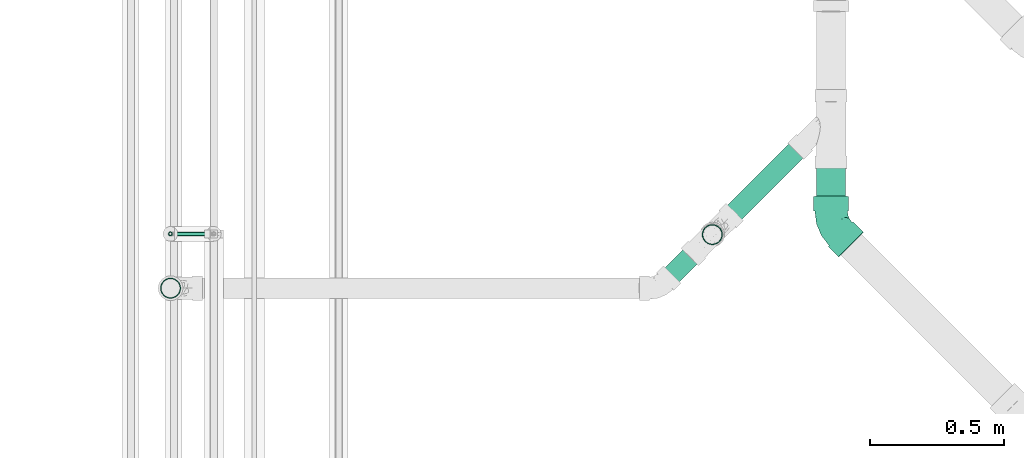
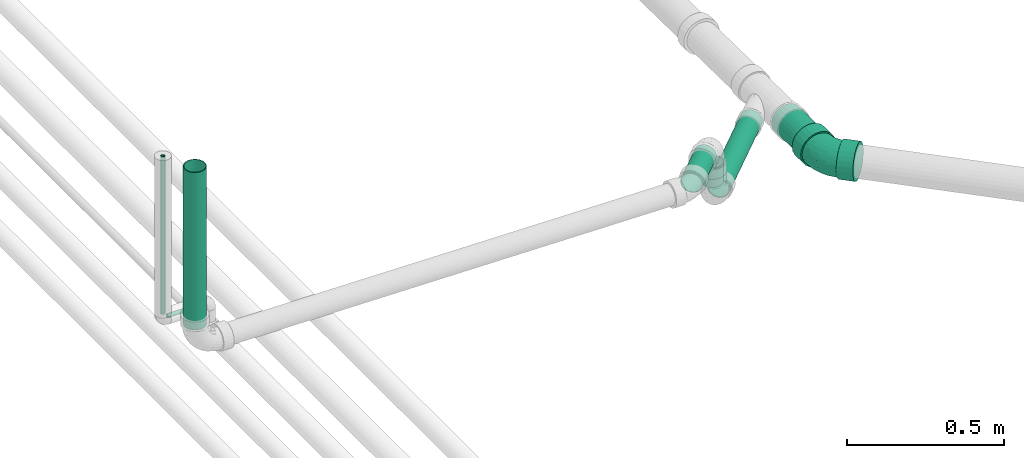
# One storey, part 29 of 83: 7 flow segments, 1 flow fitting.
"""IFC2X3 building model written with IfcOpenShell, lengths in millimetres."""

from ifc_helpers import new_model, entity, si_unit, converted_unit, derived_unit, direction, frame, origin_with_axes, origin_2d_with_axis, place, context, subcontext, project, spatial, hollow_circle, extrude, open_shell, surface_model, source, transform, mapped, type_object, element, save


model = new_model("IFC2X3")

# Units and contexts
model_context = context("Model", 3, precision=0.01, world=frame((0.0, 4.29681676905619e-09, 0.0)), true_north=direction((4.01073788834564e-13, 1.0)))
plan_context = context("Plan", 3, precision=0.01, world=frame((0.0, 4.29681676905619e-09, 0.0)), true_north=direction((4.01073788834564e-13, 1.0)))
body_context = subcontext(model_context, "Body", "Model", "MODEL_VIEW")
ifc_project = project(units=[converted_unit("PLANEANGLEUNIT", "DEGREE", entity("IfcPositiveLengthMeasure", 0.0174532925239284), si_unit("PLANEANGLEUNIT", "RADIAN"), dimensions=[0, 0, 0, 0, 0, 0, 0]), si_unit("AREAUNIT", "SQUARE_METRE"), si_unit("LENGTHUNIT", "METRE", prefix="MILLI"), si_unit("MASSUNIT", "GRAM", prefix="KILO"), si_unit("POWERUNIT", "WATT"), si_unit("PRESSUREUNIT", "PASCAL"), si_unit("FORCEUNIT", "NEWTON", prefix="KILO"), si_unit("ELECTRICVOLTAGEUNIT", "VOLT"), si_unit("ELECTRICCURRENTUNIT", "AMPERE"), si_unit("THERMODYNAMICTEMPERATUREUNIT", "DEGREE_CELSIUS"), si_unit("TIMEUNIT", "SECOND"), si_unit("VOLUMEUNIT", "CUBIC_METRE"), derived_unit("LINEARVELOCITYUNIT", [(si_unit("LENGTHUNIT", "METRE"), 1), (si_unit("TIMEUNIT", "SECOND"), -1)]), derived_unit("VOLUMETRICFLOWRATEUNIT", [(si_unit("VOLUMEUNIT", "CUBIC_METRE"), 1), (si_unit("TIMEUNIT", "SECOND"), -1)]), derived_unit("THERMALTRANSMITTANCEUNIT", [(si_unit("POWERUNIT", "WATT"), 1), (si_unit("THERMODYNAMICTEMPERATUREUNIT", "KELVIN"), -1), (si_unit("AREAUNIT", "SQUARE_METRE"), -1)]), derived_unit("SOUNDPRESSUREUNIT", [(si_unit("PRESSUREUNIT", "PASCAL"), 1)])], contexts=[model_context, plan_context])

# Site, building, storey
site_placement = place(None, frame((0.0, -4.29681676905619e-09, 0.0), z_axis=(0.0, 0.0, 1.0), x_axis=(1.0, 0.0, 0.0)))
site = spatial("IfcSite", under=ifc_project, at=site_placement, Name="ENGM", CompositionType="ELEMENT")
building_placement = place(site_placement, frame((0.0, 4.29681676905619e-09, 0.0), z_axis=(0.0, 0.0, 1.0), x_axis=(1.0, 0.0, 0.0)))
building = spatial("IfcBuilding", under=site, at=building_placement, Name="TI", CompositionType="ELEMENT")
storey_placement = place(building_placement, frame((0.0, 0.0, 204000.0), z_axis=(0.0, 0.0, 1.0), x_axis=(1.0, 0.0, 0.0)))
storey = spatial("IfcBuildingStorey", under=building, at=storey_placement, Name="Nivå D", CompositionType="ELEMENT", Elevation=204000.0)

# Flow fitting
pipe_fitting_type = type_object("IfcPipeFittingType", Name="magi_sewer_bend_001", PredefinedType="BEND")
shared_shape_1 = source(origin_with_axes(), body_context, "Body", "SurfaceModel", [
    surface_model("IfcShellBasedSurfaceModel", [(-105.11169, -16.95265, -63.26814), (-105.11169, -32.75, -56.72466), (-105.11169, -46.3155, -46.3155), (-105.11169, -63.26814, -16.95265), (-105.11169, 56.72466, -32.75), (-105.11169, -56.72466, -32.75), (-105.11169, -65.5, 0.0), (-105.11169, 16.95265, -63.26814), (-105.11169, 0.0, -65.5), (-105.11169, 32.75, -56.72466), (-105.11169, 46.3155, -46.3155), (-105.11169, 63.26814, -16.95265), (-105.11169, -63.26814, 16.95265), (-105.11169, -56.72466, 32.75), (-105.11169, -46.3155, 46.3155), (-105.11169, 63.26814, 16.95265), (-105.11169, -16.95265, 63.26814), (-105.11169, 0.0, 65.5), (-105.11169, -32.75, 56.72466), (-105.11169, 46.3155, 46.3155), (-105.11169, 56.72466, 32.75), (-105.11169, 65.5, 0.0), (-105.11169, 16.95265, 63.26814), (-105.11169, 32.75, 56.72466), (-50.11169, -16.95265, 63.26814), (-50.11169, 16.95265, 63.26814), (-50.11169, 0.0, 65.5), (-50.11169, -46.3155, 46.3155), (-50.11169, -32.75, 56.72466), (-50.11169, -56.72466, 32.75), (-50.11169, -63.26814, 16.95265), (-50.11169, -63.26814, -16.95265), (-50.11169, 32.75, -56.72466), (-50.11169, -65.5, 0.0), (-50.11169, -16.95265, -63.26814), (-50.11169, -56.72466, -32.75), (-50.11169, -46.3155, -46.3155), (-50.11169, -32.75, -56.72466), (-50.11169, 0.0, -65.5), (-50.11169, 16.95265, -63.26814), (-50.11169, 32.75, 56.72466), (86.31969, 62.32793, 63.26814), (97.48882, 51.15623, 56.72466), (107.07996, 41.56287, 46.3155), (86.31969, 62.32793, -63.26814), (107.07996, 41.56287, -46.3155), (97.48882, 51.15623, -56.72466), (-9.2938, 80.17271, -16.95265), (-10.87178, 81.75106, 0.0), (29.60155, 119.05911, -16.95265), (34.22796, 114.43164, -32.75), (-4.66739, 75.54525, -32.75), (28.02357, 120.63746, 0.0), (-9.2938, 80.17271, 16.95265), (74.33373, 74.31664, 65.5), (35.43839, 35.43024, 65.5), (-50.11169, -30.25, -52.39454), (-50.11169, -42.77996, -42.77996), (-50.11169, -15.65855, -58.43851), (-50.11169, 0.0, -60.5), (-50.11169, -58.43851, -15.65855), (-50.11169, -60.5, 0.0), (-50.11169, -52.39454, -30.25), (-50.11169, 15.65855, 58.43851), (-50.11169, 30.25, 52.39454), (-50.11169, -58.43851, 15.65855), (-50.11169, -52.39454, 30.25), (-50.11169, -42.77996, 42.77996), (-50.11169, -30.25, 52.39454), (-50.11169, -15.65855, 58.43851), (-50.11169, 0.0, 60.5), (72.48266, -1.62256, -30.25), (78.21343, -7.35464, 0.0), (76.75591, -5.89678, -15.65855), (65.68491, 5.17676, -42.77996), (76.75591, -5.89678, 15.65855), (65.68491, 5.17676, 42.77996), (72.48266, -1.62256, 30.25), (56.82591, 14.0378, 52.39454), (24.36739, 46.50378, 58.43851), (35.43839, 35.43024, 60.5), (15.40779, -37.20376, 33.71575), (-13.37979, -34.19359, 46.68447), (-19.52869, -46.27099, 35.42531), (-20.20595, -56.56342, 0.0), (-3.14275, -54.31734, 0.0), (-12.90841, -55.73812, 10.33155), (46.52523, -18.91501, 35.42531), (-23.96888, -22.18524, 55.29409), (6.21199, -14.9995, 54.53203), (-18.05072, -5.82526, 59.69855), (-30.3089, 8.38332, 60.13281), (-23.23918, 25.17567, 56.55885), (-17.18178, 41.48723, 49.39213), (23.34312, -39.60182, 23.84486), (-10.84361, -52.34235, 21.01062), (18.78215, -45.35149, 13.15148), (-1.60588, 72.48303, 30.25), (-5.87912, 76.75726, 15.65855), (-24.91871, 60.16888, 24.85552), (-26.96256, 65.10396, 0.0), (-24.23052, 64.82487, 12.7115), (-7.33665, 78.21512, 0.0), (10.15363, -24.51702, 48.24728), (16.88386, 8.64276, 59.69855), (-26.67255, 50.73823, 38.17936), (32.63604, 1.25747, 55.29409), (5.19187, 65.68372, 42.77996), (1.79864, 36.36872, 56.46793), (18.74175, -45.25396, 0.0), (-18.05072, -5.82526, -59.69855), (-12.90841, -55.73812, -10.33155), (18.78215, -45.35149, -13.15148), (-26.98558, 24.44784, -56.46793), (-27.97808, 12.5178, -59.61973), (-50.11169, 15.65855, -58.43851), (-50.11169, 30.25, -52.39454), (-10.84361, -52.34235, -21.01062), (5.19187, 65.68372, -42.77996), (-17.18178, 41.48723, -49.39213), (-17.01071, 54.73965, -38.17936), (-19.52869, -46.27099, -35.42531), (-13.37979, -34.19359, -46.68447), (-23.96888, -22.18524, -55.29409), (-5.87912, 76.75726, -15.65855), (-1.60588, 72.48303, -30.25), (-24.91871, 60.16888, -24.85551), (6.21199, -14.9995, -54.53203), (15.40779, -37.20376, -33.71575), (-28.6973, 62.97497, -12.7115), (16.88386, 8.64276, -59.69855), (-1.36537, 34.23462, -56.55885), (11.49152, -44.51012, -23.84486), (32.63604, 1.25747, -55.29409), (54.28118, -25.71485, 0.0), (-50.11168, 46.3155, 46.3155), (-50.11168, 63.26814, 16.95265), (-50.11168, 56.72466, 32.75), (-50.11168, 63.26814, -16.95265), (-50.11168, 65.5, 0.0), (-50.11168, 56.72466, -32.75), (-50.11168, 46.3155, -46.3155), (29.60156, 119.0591, 16.95265), (-50.11168, 58.43851, -15.65855), (-50.11168, 52.39454, -30.25), (-50.11168, 42.77996, -42.77996), (-50.11168, 52.39454, 30.25), (-50.11168, 58.43851, 15.65855), (-50.11168, 42.77996, 42.77996), (14.05087, 56.82267, 52.39454), (-50.11168, 60.5, 0.0), (44.67583, -29.34919, 21.01062), (33.63776, -14.72146, 46.68447), (46.50938, 24.35668, 58.43851), (48.53694, -30.29078, 10.33155), (35.43839, 35.43023, -60.5), (46.50938, 24.35668, -58.43851), (14.05087, 56.82267, -52.39454), (44.67584, -29.34919, -21.01062), (33.63776, -14.72146, -46.68447), (46.52521, -18.91503, -35.42531), (48.53694, -30.29078, -10.33155), (15.50688, 27.35775, -60.13281), (23.45244, 47.41894, -63.26814), (62.34779, 86.30533, -63.26814), (35.43839, 35.43023, -65.5), (12.28331, 58.59064, -56.72466), (51.17865, 97.47704, -56.72466), (41.58751, 107.07039, -46.3155), (51.17865, 97.47704, 56.72466), (12.28331, 58.59064, 56.72466), (23.45244, 47.41894, 63.26814), (62.34779, 86.30533, 63.26814), (40.62625, -36.19058, 0.0), (54.28118, -25.71487, 0.0), (24.36739, 46.50377, -58.43851), (-5.75269, 13.89049, 60.28733), (10.93536, 28.63364, 59.61973), (34.22796, 114.43164, 32.75), (41.58751, 107.07041, 46.3155), (2.69216, 68.184, 46.3155), (2.69216, 68.184, -46.3155), (-4.66739, 75.54524, 32.75), (58.59347, 12.26981, 56.72466), (47.42434, 23.44151, 63.26814), (58.59347, 12.26981, -56.72466), (47.42434, 23.44151, -63.26814), (-5.75269, 13.89049, -60.28734), (74.33373, 74.31664, -65.5), (119.06592, 29.57415, 16.95265), (120.6439, 27.9958, 0.0), (114.43952, 34.20162, 32.75), (114.43952, 34.20162, -32.75), (119.06592, 29.57415, -16.95265), (80.17058, -9.31224, -16.95265), (81.74855, -10.89058, 0.0), (80.17058, -9.31224, 16.95265), (75.54417, -4.68477, 32.75), (68.18462, 2.67647, 46.3155), (75.54417, -4.68477, -32.75), (68.18462, 2.67647, -46.3155), (56.82591, 14.0378, -52.39454), (10.15363, -24.51702, -48.24728)], [open_shell([[[0, 1, 2]], [[0, 2, 3]], [[0, 3, 4]], [[3, 2, 5]], [[4, 3, 6]], [[0, 7, 8]], [[0, 9, 7]], [[10, 9, 0]], [[0, 4, 10]], [[6, 11, 4]], [[6, 12, 11]], [[12, 13, 14]], [[11, 14, 15]], [[16, 17, 14]], [[16, 14, 18]], [[15, 14, 17]], [[15, 19, 20]], [[21, 11, 15]], [[19, 22, 23]], [[22, 19, 15]], [[17, 22, 15]], [[11, 12, 14]], [[24, 25, 26]], [[27, 24, 28]], [[27, 29, 30]], [[24, 27, 25]], [[30, 25, 27]], [[31, 32, 33]], [[34, 31, 35]], [[36, 37, 34]], [[36, 34, 35]], [[38, 31, 34]], [[32, 38, 39]], [[32, 31, 38]], [[39, 38, 7]], [[9, 32, 7]], [[32, 39, 7]], [[38, 8, 7]], [[0, 34, 37]], [[36, 1, 37]], [[5, 35, 31]], [[36, 35, 2]], [[3, 31, 33]], [[34, 0, 8]], [[37, 1, 0]], [[36, 2, 1]], [[35, 5, 2]], [[3, 5, 31]], [[33, 6, 3]], [[34, 8, 38]], [[30, 12, 33]], [[29, 13, 30]], [[28, 18, 27]], [[27, 14, 29]], [[30, 13, 12]], [[12, 6, 33]], [[17, 16, 24]], [[16, 18, 28]], [[14, 27, 18]], [[14, 13, 29]], [[24, 16, 28]], [[24, 26, 17]], [[22, 25, 40]], [[25, 22, 17]], [[40, 23, 22]], [[25, 17, 26]], [[41, 42, 43]], [[44, 45, 46]], [[47, 48, 49]], [[50, 51, 49]], [[51, 47, 49]], [[48, 52, 49]], [[53, 52, 48]], [[41, 54, 55]], [[56, 57, 58]], [[57, 59, 58]], [[60, 61, 62]], [[57, 62, 61]], [[57, 61, 59]], [[63, 64, 65]], [[66, 67, 65]], [[68, 65, 67]], [[69, 70, 68]], [[65, 68, 70]], [[70, 63, 65]], [[71, 72, 73]], [[72, 71, 74]], [[75, 76, 77]], [[76, 75, 78]], [[75, 79, 80]], [[81, 82, 83]], [[84, 85, 86]], [[68, 67, 82]], [[77, 76, 87]], [[88, 82, 89]], [[83, 82, 67]], [[69, 68, 88]], [[70, 69, 90]], [[91, 63, 70]], [[64, 92, 93]], [[65, 84, 86]], [[94, 95, 96]], [[67, 66, 83]], [[95, 86, 96]], [[64, 63, 92]], [[97, 98, 99]], [[81, 83, 95]], [[66, 95, 83]], [[91, 92, 63]], [[81, 94, 87]], [[66, 65, 95]], [[100, 101, 102]], [[82, 103, 89]], [[98, 101, 99]], [[89, 104, 90]], [[97, 99, 105]], [[89, 106, 104]], [[97, 105, 107]], [[108, 93, 92]], [[88, 90, 69]], [[107, 105, 93]], [[82, 88, 68]], [[90, 88, 89]], [[65, 61, 84]], [[96, 85, 109]], [[65, 86, 95]], [[85, 96, 86]], [[90, 91, 70]], [[81, 103, 82]], [[102, 101, 98]], [[95, 94, 81]], [[58, 59, 110]], [[85, 111, 112]], [[113, 114, 115]], [[60, 111, 84]], [[116, 113, 115]], [[111, 60, 117]], [[118, 119, 120]], [[117, 62, 121]], [[121, 57, 122]], [[57, 56, 122]], [[60, 62, 117]], [[57, 121, 62]], [[123, 56, 58]], [[124, 125, 126]], [[127, 123, 110]], [[128, 121, 122]], [[102, 124, 129]], [[127, 110, 130]], [[125, 120, 126]], [[123, 122, 56]], [[114, 110, 59]], [[119, 131, 113]], [[111, 117, 112]], [[128, 132, 121]], [[124, 126, 129]], [[125, 118, 120]], [[119, 113, 116]], [[110, 123, 58]], [[122, 123, 127]], [[130, 133, 127]], [[84, 111, 85]], [[84, 61, 60]], [[132, 112, 117]], [[73, 72, 134]], [[59, 115, 114]], [[129, 100, 102]], [[121, 132, 117]], [[85, 112, 109]], [[135, 136, 137]], [[136, 138, 139]], [[138, 11, 139]], [[140, 4, 138]], [[141, 10, 140]], [[138, 4, 11]], [[11, 21, 139]], [[9, 10, 141]], [[10, 4, 140]], [[20, 137, 136]], [[135, 137, 19]], [[15, 136, 139]], [[135, 19, 23]], [[137, 20, 19]], [[15, 20, 136]], [[139, 21, 15]], [[53, 142, 52]], [[143, 144, 145]], [[146, 147, 148]], [[148, 93, 105]], [[149, 107, 93]], [[146, 105, 99]], [[147, 146, 99]], [[101, 150, 147]], [[151, 94, 96]], [[147, 99, 101]], [[79, 149, 108]], [[146, 148, 105]], [[103, 81, 152]], [[93, 108, 149]], [[104, 106, 153]], [[152, 106, 89]], [[96, 154, 151]], [[152, 89, 103]], [[101, 100, 150]], [[155, 156, 130]], [[144, 120, 145]], [[126, 120, 144]], [[133, 130, 156]], [[118, 157, 119]], [[126, 144, 143]], [[131, 119, 157]], [[132, 158, 112]], [[127, 133, 159]], [[160, 128, 159]], [[128, 160, 158]], [[145, 120, 119]], [[161, 112, 158]], [[130, 162, 155]], [[158, 132, 128]], [[163, 164, 165]], [[166, 167, 163]], [[163, 167, 164]], [[168, 167, 166]], [[169, 170, 171]], [[172, 169, 171]], [[150, 143, 147]], [[98, 124, 102]], [[154, 96, 173]], [[174, 154, 173]], [[173, 96, 109]], [[157, 175, 131]], [[162, 175, 155]], [[162, 131, 175]], [[112, 173, 109]], [[112, 161, 173]], [[151, 75, 77]], [[151, 77, 87]], [[87, 94, 151]], [[176, 177, 108]], [[25, 135, 40]], [[135, 25, 136]], [[25, 30, 136]], [[136, 30, 138]], [[33, 141, 140]], [[140, 138, 33]], [[32, 141, 33]], [[33, 138, 30]], [[141, 32, 9]], [[135, 23, 40]], [[178, 52, 142]], [[172, 178, 179]], [[172, 179, 169]], [[168, 164, 167]], [[180, 171, 170]], [[181, 168, 166]], [[50, 168, 181]], [[181, 51, 50]], [[142, 53, 182]], [[180, 178, 182]], [[180, 170, 179]], [[172, 171, 55]], [[182, 178, 142]], [[180, 179, 178]], [[170, 169, 179]], [[183, 42, 184]], [[46, 185, 186]], [[115, 59, 143]], [[116, 115, 143]], [[116, 143, 145]], [[61, 143, 59]], [[61, 65, 143]], [[147, 143, 65]], [[64, 147, 65]], [[148, 147, 64]], [[118, 175, 157]], [[79, 108, 177]], [[90, 176, 91]], [[78, 153, 106]], [[93, 148, 64]], [[80, 177, 104]], [[104, 153, 80]], [[152, 78, 106]], [[81, 87, 152]], [[176, 90, 104]], [[176, 108, 92]], [[104, 177, 176]], [[80, 79, 177]], [[92, 91, 176]], [[143, 129, 126]], [[150, 100, 129]], [[145, 119, 116]], [[187, 162, 130]], [[187, 130, 110]], [[187, 114, 113]], [[110, 114, 187]], [[150, 129, 143]], [[49, 168, 50]], [[186, 184, 171]], [[48, 47, 53]], [[168, 178, 44]], [[178, 172, 44]], [[168, 49, 52]], [[168, 52, 178]], [[168, 188, 164]], [[43, 172, 54]], [[172, 43, 44]], [[189, 190, 43]], [[189, 43, 191]], [[45, 43, 190]], [[188, 168, 44]], [[43, 45, 44]], [[192, 45, 190]], [[190, 193, 192]], [[54, 41, 43]], [[194, 195, 196]], [[197, 194, 196]], [[198, 183, 184]], [[194, 197, 198]], [[194, 198, 184]], [[199, 186, 200]], [[186, 199, 194]], [[200, 186, 185]], [[194, 184, 186]], [[186, 163, 165]], [[186, 171, 180]], [[180, 182, 53]], [[180, 163, 186]], [[163, 180, 53]], [[53, 166, 163]], [[53, 181, 166]], [[53, 47, 51]], [[181, 53, 51]], [[184, 55, 171]], [[164, 188, 165]], [[55, 54, 172]], [[184, 41, 55]], [[197, 191, 198]], [[198, 43, 183]], [[184, 42, 41]], [[190, 189, 196]], [[189, 191, 197]], [[43, 198, 191]], [[43, 42, 183]], [[196, 189, 197]], [[196, 195, 190]], [[193, 194, 199]], [[200, 192, 199]], [[200, 185, 45]], [[44, 186, 165]], [[194, 193, 190]], [[199, 192, 193]], [[200, 45, 192]], [[185, 46, 45]], [[44, 46, 186]], [[165, 188, 44]], [[194, 190, 195]], [[118, 155, 175]], [[155, 125, 72]], [[125, 155, 118]], [[75, 72, 125]], [[156, 74, 201]], [[156, 155, 74]], [[155, 72, 74]], [[125, 124, 75]], [[75, 124, 98]], [[149, 98, 97]], [[98, 149, 75]], [[149, 97, 107]], [[79, 75, 149]], [[75, 153, 78]], [[153, 75, 80]], [[75, 154, 174]], [[76, 78, 152]], [[76, 152, 87]], [[154, 75, 151]], [[174, 72, 75]], [[201, 74, 159]], [[71, 73, 158]], [[202, 128, 122]], [[73, 134, 161]], [[133, 156, 201]], [[74, 160, 159]], [[74, 71, 160]], [[161, 134, 173]], [[159, 202, 127]], [[71, 158, 160]], [[187, 113, 131]], [[159, 133, 201]], [[73, 161, 158]], [[131, 162, 187]], [[128, 202, 159]], [[122, 127, 202]]])]),
])
flow_fitting_placement = place(storey_placement, frame((602182.39912, 693710.42887, 6055.51329), z_axis=(-0.00691400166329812, 0.0166640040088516, 0.999837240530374), x_axis=(1.01101290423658e-06, -0.999861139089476, 0.0166644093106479)))
element("IfcFlowFitting", 1, at=flow_fitting_placement, inside=storey, type_object=pipe_fitting_type, Name="magi_sewer_bend_001", context=body_context, shape_type="MappedRepresentation", body=[
    mapped(shared_shape_1, transform((0.0, 0.0, 0.0), scale=1.0)),
])

# Flow segments
pipe_segment_type_1 = type_object("IfcPipeSegmentType", Name="MA", PredefinedType="RIGIDSEGMENT")
shared_shape_2 = source(origin_with_axes(), body_context, "Body", "SweptSolid", [
    extrude(hollow_circle(Radius=55.0, WallThickness=2.0, at=origin_2d_with_axis()), frame((0.0, 0.0, 0.0), z_axis=(1.0, 0.0, 0.0), x_axis=(0.0, 1.0, 0.0)), (0.0, 0.0, 1.0), 204.7),
])
flow_segment_1_placement = place(storey_placement, frame((602182.39912, 693965.18779, 6051.26731), z_axis=(-0.999976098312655, -0.000115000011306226, -0.00691300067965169), x_axis=(-2.2798979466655e-07, -0.999861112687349, 0.0166659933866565)))
element("IfcFlowSegment", 2, at=flow_segment_1_placement, inside=storey, type_object=pipe_segment_type_1, Name="MA", context=body_context, shape_type="MappedRepresentation", body=[
    mapped(shared_shape_2, transform((0.0, 0.0, 0.0), scale=1.0)),
])
pipe_segment_type_2 = type_object("IfcPipeSegmentType", Name="Kobberrør", PredefinedType="RIGIDSEGMENT")
shared_shape_3 = source(origin_with_axes(), body_context, "Body", "SweptSolid", [
    extrude(hollow_circle(Radius=7.5, WallThickness=2.0, at=origin_2d_with_axis()), frame((0.0, 0.0, 0.0), z_axis=(1.0, 0.0, 0.0), x_axis=(0.0, 1.0, 0.0)), (0.0, 0.0, 1.0), 613.9),
])
flow_segment_2_placement = place(storey_placement, frame((599719.29255, 693675.702, 6330.0), z_axis=(1.0, 0.0, 0.0), x_axis=(0.0, 0.0, 1.0)))
element("IfcFlowSegment", 3, at=flow_segment_2_placement, inside=storey, type_object=pipe_segment_type_2, Name="Kobberrør", context=body_context, shape_type="MappedRepresentation", body=[
    mapped(shared_shape_3, transform((0.0, 0.0, 0.0), scale=1.0)),
])
shared_shape_4 = source(origin_with_axes(), body_context, "Body", "SweptSolid", [
    extrude(hollow_circle(Radius=37.5, WallThickness=2.0, at=origin_2d_with_axis()), frame((0.0, 0.0, 0.0), z_axis=(1.0, 0.0, 0.0), x_axis=(0.0, 1.0, 0.0)), (0.0, 0.0, 1.0), 613.9),
])
flow_segment_3_placement = place(storey_placement, frame((599719.85559, 693473.102, 7026.9007), z_axis=(-1.0, 0.0, 0.0), x_axis=(0.0, 0.0, -1.0)))
element("IfcFlowSegment", 4, at=flow_segment_3_placement, inside=storey, type_object=pipe_segment_type_1, Name="MA", context=body_context, shape_type="MappedRepresentation", body=[
    mapped(shared_shape_4, transform((0.0, 0.0, 0.0), scale=1.0)),
])
shared_shape_5 = source(origin_with_axes(), body_context, "Body", "SweptSolid", [
    extrude(hollow_circle(Radius=7.5, WallThickness=2.0, at=origin_2d_with_axis()), frame((0.0, 0.0, 0.0), z_axis=(1.0, 0.0, 0.0), x_axis=(0.0, 1.0, 0.0)), (0.0, 0.0, 1.0), 132.2),
])
flow_segment_4_placement = place(storey_placement, frame((599734.29255, 693675.702, 6315.0), z_axis=(0.0, 0.0, 1.0), x_axis=(1.0, 0.0, 0.0)))
element("IfcFlowSegment", 5, at=flow_segment_4_placement, inside=storey, type_object=pipe_segment_type_2, Name="Kobberrør", context=body_context, shape_type="MappedRepresentation", body=[
    mapped(shared_shape_5, transform((0.0, 0.0, 0.0), scale=1.0)),
])
shared_shape_6 = source(origin_with_axes(), body_context, "Body", "SweptSolid", [
    extrude(hollow_circle(Radius=37.5, WallThickness=2.0, at=origin_2d_with_axis()), frame((0.0, 0.0, 0.0), z_axis=(1.0, 0.0, 0.0), x_axis=(0.0, 1.0, 0.0)), (0.0, 0.0, 1.0), 167.6),
])
flow_segment_5_placement = place(storey_placement, frame((601563.75929, 693497.25842, 6301.00422), z_axis=(0.0117570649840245, 0.0117570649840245, 0.999861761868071), x_axis=(0.707009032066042, 0.707009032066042, -0.0166270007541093)))
element("IfcFlowSegment", 6, at=flow_segment_5_placement, inside=storey, type_object=pipe_segment_type_1, Name="MA", context=body_context, shape_type="MappedRepresentation", body=[
    mapped(shared_shape_6, transform((0.0, 0.0, 0.0), scale=1.0)),
])
shared_shape_7 = source(origin_with_axes(), body_context, "Body", "SweptSolid", [
    extrude(hollow_circle(Radius=37.5, WallThickness=2.0, at=origin_2d_with_axis()), frame((0.0, 0.0, 0.0), z_axis=(1.0, 0.0, 0.0), x_axis=(0.0, 1.0, 0.0)), (0.0, 0.0, 1.0), 404.8),
])
flow_segment_6_placement = place(storey_placement, frame((601796.99145, 693730.49058, 6057.81729000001), z_axis=(0.0117570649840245, 0.0117570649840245, 0.999861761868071), x_axis=(0.707009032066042, 0.707009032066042, -0.0166270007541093)))
element("IfcFlowSegment", 7, at=flow_segment_6_placement, inside=storey, type_object=pipe_segment_type_1, Name="MA", context=body_context, shape_type="MappedRepresentation", body=[
    mapped(shared_shape_7, transform((0.0, 0.0, 0.0), scale=1.0)),
])
shared_shape_8 = source(origin_with_axes(), body_context, "Body", "SweptSolid", [
    extrude(hollow_circle(Radius=37.5, WallThickness=2.0, at=origin_2d_with_axis()), frame((0.0, 0.0, 0.0), z_axis=(1.0, 0.0, 0.0), x_axis=(0.0, 1.0, 0.0)), (0.0, 0.0, 1.0), 75.4),
])
flow_segment_7_placement = place(storey_placement, frame((601739.62406, 693673.12319, 6215.72886), z_axis=(0.0, 1.0, 0.0), x_axis=(0.0, 0.0, -1.0)))
element("IfcFlowSegment", 8, at=flow_segment_7_placement, inside=storey, type_object=pipe_segment_type_1, Name="MA", context=body_context, shape_type="MappedRepresentation", body=[
    mapped(shared_shape_8, transform((0.0, 0.0, 0.0), scale=1.0)),
])

save(model, "model.ifc")
